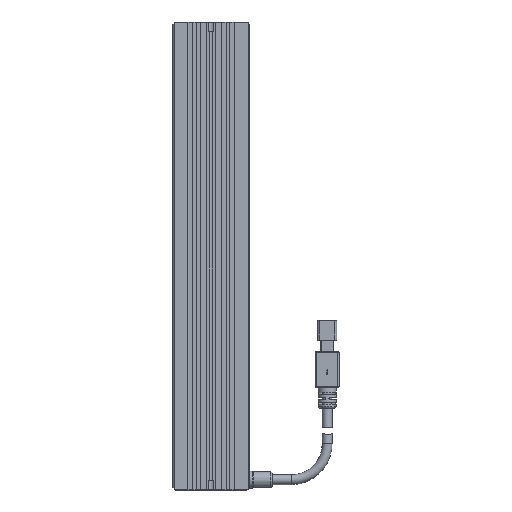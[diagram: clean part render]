
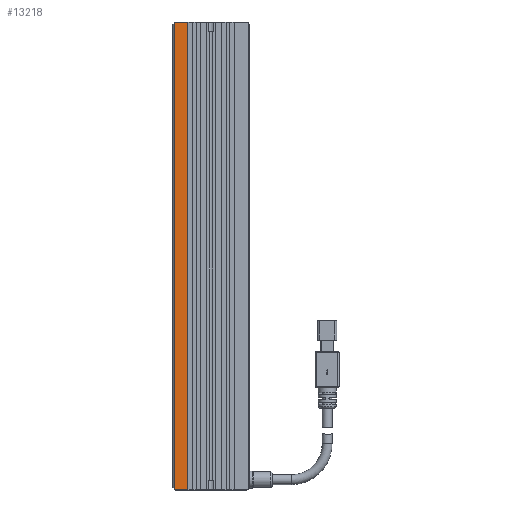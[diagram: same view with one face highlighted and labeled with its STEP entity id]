
A CAD part, top view. The second image highlights one B-rep face of the part: STEP entity #13218.
In plain terms, the highlighted planar face has unit normal (0, 0, 1).
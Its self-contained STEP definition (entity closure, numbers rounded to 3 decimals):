
#535 = EDGE_CURVE ( 'NONE', #613, #13955, #5363, .T. ) ;
#613 = VERTEX_POINT ( 'NONE', #8265 ) ;
#1454 = EDGE_CURVE ( 'NONE', #13955, #7065, #1779, .T. ) ;
#1530 = VECTOR ( 'NONE', #16367, 1000. ) ;
#1666 = VECTOR ( 'NONE', #3443, 1000. ) ;
#1674 = CARTESIAN_POINT ( 'NONE',  ( -15.5, 98., 12.5 ) ) ;
#1779 = LINE ( 'NONE', #16506, #1530 ) ;
#1977 = LINE ( 'NONE', #1674, #15936 ) ;
#2067 = ORIENTED_EDGE ( 'NONE', *, *, #3712, .T. ) ;
#3146 = ORIENTED_EDGE ( 'NONE', *, *, #535, .T. ) ;
#3308 = CARTESIAN_POINT ( 'NONE',  ( -15.5, 98., 12.5 ) ) ;
#3443 = DIRECTION ( 'NONE',  ( 0., -1., 0. ) ) ;
#3511 = CARTESIAN_POINT ( 'NONE',  ( -15.5, -97.5, 12.5 ) ) ;
#3712 = EDGE_CURVE ( 'NONE', #13978, #11447, #16889, .T. ) ;
#4536 = ORIENTED_EDGE ( 'NONE', *, *, #17120, .T. ) ;
#4678 = DIRECTION ( 'NONE',  ( 1., 0., 0. ) ) ;
#4850 = DIRECTION ( 'NONE',  ( -0.707, -0.707, 0. ) ) ;
#4932 = CARTESIAN_POINT ( 'NONE',  ( -15., -98., 12.5 ) ) ;
#5363 = LINE ( 'NONE', #13732, #7468 ) ;
#6240 = PLANE ( 'NONE',  #6750 ) ;
#6374 = CARTESIAN_POINT ( 'NONE',  ( -9.7, 98., 12.5 ) ) ;
#6750 = AXIS2_PLACEMENT_3D ( 'NONE', #3308, #10900, #7937 ) ;
#7065 = VERTEX_POINT ( 'NONE', #3511 ) ;
#7468 = VECTOR ( 'NONE', #4850, 1000. ) ;
#7937 = DIRECTION ( 'NONE',  ( -1., 0., 0. ) ) ;
#8126 = LINE ( 'NONE', #19108, #15690 ) ;
#8265 = CARTESIAN_POINT ( 'NONE',  ( -15., 98., 12.5 ) ) ;
#8349 = EDGE_CURVE ( 'NONE', #15943, #11447, #13451, .T. ) ;
#9066 = ORIENTED_EDGE ( 'NONE', *, *, #1454, .T. ) ;
#9099 = FACE_OUTER_BOUND ( 'NONE', #11890, .T. ) ;
#10900 = DIRECTION ( 'NONE',  ( 0., 0., -1. ) ) ;
#11447 = VERTEX_POINT ( 'NONE', #17999 ) ;
#11890 = EDGE_LOOP ( 'NONE', ( #14344, #3146, #9066, #4536, #2067, #12219 ) ) ;
#12219 = ORIENTED_EDGE ( 'NONE', *, *, #8349, .F. ) ;
#12826 = VECTOR ( 'NONE', #16646, 1000. ) ;
#13200 = CARTESIAN_POINT ( 'NONE',  ( -9.7, 98., 12.5 ) ) ;
#13218 = ADVANCED_FACE ( 'NONE', ( #9099 ), #6240, .F. ) ;
#13451 = LINE ( 'NONE', #6374, #1666 ) ;
#13732 = CARTESIAN_POINT ( 'NONE',  ( -15., 98., 12.5 ) ) ;
#13955 = VERTEX_POINT ( 'NONE', #18698 ) ;
#13978 = VERTEX_POINT ( 'NONE', #4932 ) ;
#14344 = ORIENTED_EDGE ( 'NONE', *, *, #17164, .F. ) ;
#15153 = CARTESIAN_POINT ( 'NONE',  ( -15.5, -98., 12.5 ) ) ;
#15690 = VECTOR ( 'NONE', #17640, 1000. ) ;
#15936 = VECTOR ( 'NONE', #4678, 1000. ) ;
#15943 = VERTEX_POINT ( 'NONE', #13200 ) ;
#16367 = DIRECTION ( 'NONE',  ( 0., -1., 0. ) ) ;
#16506 = CARTESIAN_POINT ( 'NONE',  ( -15.5, 98., 12.5 ) ) ;
#16646 = DIRECTION ( 'NONE',  ( 1., 0., 0. ) ) ;
#16889 = LINE ( 'NONE', #15153, #12826 ) ;
#17120 = EDGE_CURVE ( 'NONE', #7065, #13978, #8126, .T. ) ;
#17164 = EDGE_CURVE ( 'NONE', #613, #15943, #1977, .T. ) ;
#17640 = DIRECTION ( 'NONE',  ( 0.707, -0.707, 0. ) ) ;
#17999 = CARTESIAN_POINT ( 'NONE',  ( -9.7, -98., 12.5 ) ) ;
#18698 = CARTESIAN_POINT ( 'NONE',  ( -15.5, 97.5, 12.5 ) ) ;
#19108 = CARTESIAN_POINT ( 'NONE',  ( -16., -97., 12.5 ) ) ;
